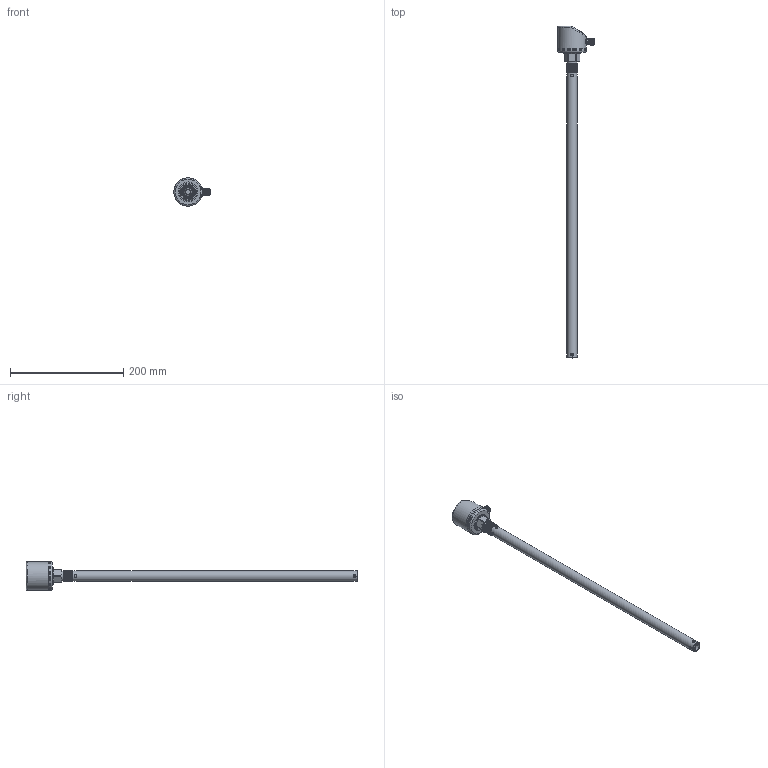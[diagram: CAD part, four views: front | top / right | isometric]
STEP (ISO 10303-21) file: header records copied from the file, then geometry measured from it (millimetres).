
FILE_DESCRIPTION (( 'STEP AP214' ), '1' );
FILE_NAME ('1-2数显电容-500.STEP', '2025-03-11T05:47:39', ( '' ), ( '' ), 'SwSTEP 2.0', 'SolidWorks 2020', '' );
FILE_SCHEMA (( 'AUTOMOTIVE_DESIGN' ));
Length unit declared in the file: millimetre
Products named in the file (9): 偌瑩簽; 揤薯珆尨欶; PVC躇猾菜; 抻芛ㄗ蟀哿講ㄘ; 滅阨諉芛褲极1; 揤薯奻裔; 肮粣奪; 1-2数显电容-500; 恦謫抻芛5
Assembly tree (10 placements, depth 2):
  1-2数显电容-500
    揤薯奻裔
    揤薯珆尨欶
    滅阨諉芛褲极1
    偌瑩簽  x3
    PVC躇猾菜
    恦謫抻芛5
    抻芛ㄗ蟀哿講ㄘ
    肮粣奪
Bounding box: 64 x 586.5 x 50 mm (x, y, z)
Volume: 92470.8 mm3; surface area: 101640.5 mm2
Topology: 10 solids, 10 shells, 306 faces, 720 edges, 466 vertices
Faces by surface type: plane 126, cylinder 115, cone 39, bspline 11, torus 11, sphere 4
Full cylindrical faces by diameter (mm): 1 x4, 1.2 x3, 1.8 x1, 2 x3, 2.5 x4, 2.8 x1, 4.3 x3, 4.5 x6, 5 x8, 6 x1, 7.2 x1, 8 x1, 8.5 x1, 9.75 x1, 10 x1, 10.49 x1, 10.5 x1, 10.8 x1, 10.9 x1, 11 x2, 12 x1, 16 x1, 18 x1, 18.5 x1, 21 x1, 29.24 x1, 35 x1, 43.9 x1, 45.4 x1, 45.6 x2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
Entity records: 13745 total; most frequent: CARTESIAN_POINT 7166, DIRECTION 1284, ORIENTED_EDGE 1072, EDGE_CURVE 536, AXIS2_PLACEMENT_3D 523, EDGE_LOOP 458, VERTEX_POINT 398, FACE_OUTER_BOUND 344
